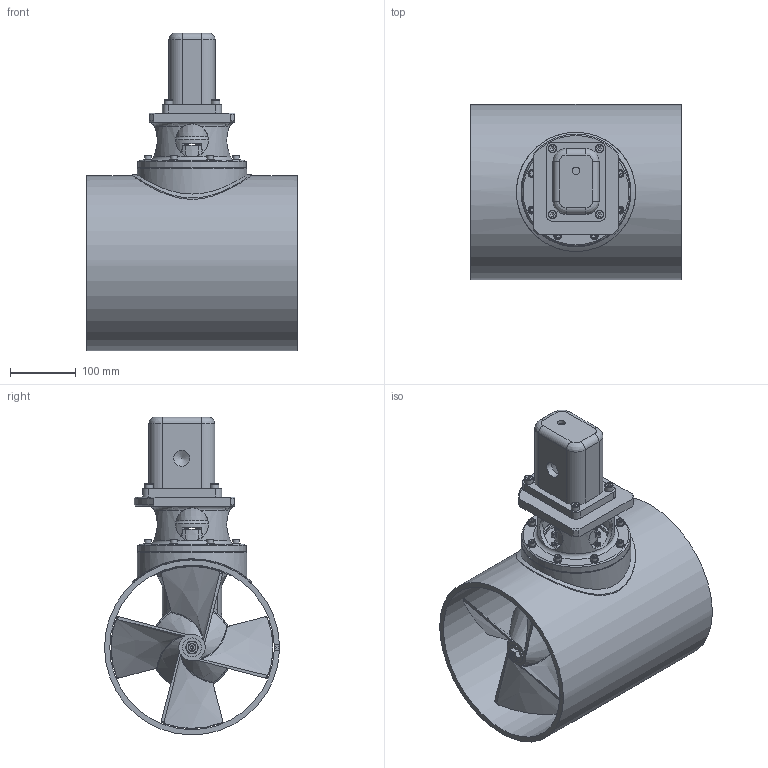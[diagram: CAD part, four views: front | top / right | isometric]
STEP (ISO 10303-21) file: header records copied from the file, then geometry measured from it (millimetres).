
FILE_DESCRIPTION(/* description */ (''),/* implementation_level */ '2;1');
FILE_NAME(/* name */ 'Q:\THRUSTERS\THRUSTER SALES & SUPPORT DOCS\THRUSTER Sales\H-T\H-0250-T\H-0250-T.stp',/* time_stamp */ '2020-03-04T15:24:09+00:00',/* author */ ('Jordan.Griffith'),/* organization */ (''),/* preprocessor_version */ 'ST-DEVELOPER v17',/* originating_system */ 'Autodesk Inventor 2019',/* authorisation */ '');
FILE_SCHEMA (('AUTOMOTIVE_DESIGN { 1 0 10303 214 3 1 1 }'));
Products named in the file (1): H-0250-T_Shrinkwrap_1
Bounding box: 320 x 266 x 482.98 mm (x, y, z)
Volume: 5565667.2 mm3; surface area: 1409274.1 mm2
Topology: 54 solids, 54 shells, 1501 faces, 4207 edges, 2906 vertices
Faces by surface type: plane 481, cylinder 457, cone 241, bspline 181, torus 141
Full cylindrical faces by diameter (mm): 3.242 x8, 3.3 x4, 4.134 x2, 4.2 x40, 4.3 x4, 5 x22, 5.1 x16, 5.2 x16, 5.5 x28, 6 x28, 6.2 x8, 6.5 x8, 6.6 x8, 8 x7, 8.3 x4, 8.5 x12, 8.566 x2, 9 x32, 9.8 x2, 10 x8, 10.3 x2, 11.8 x1, 12 x10, 13 x4, 15 x1, 16 x2, 19 x4, 20 x7, 20.5 x1, 24.5 x2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
Entity records: 95742 total; most frequent: CARTESIAN_POINT 55583, ORIENTED_EDGE 8248, DIRECTION 7736, EDGE_CURVE 4124, AXIS2_PLACEMENT_3D 3252, VERTEX_POINT 2906, EDGE_LOOP 1976, CIRCLE 1895
